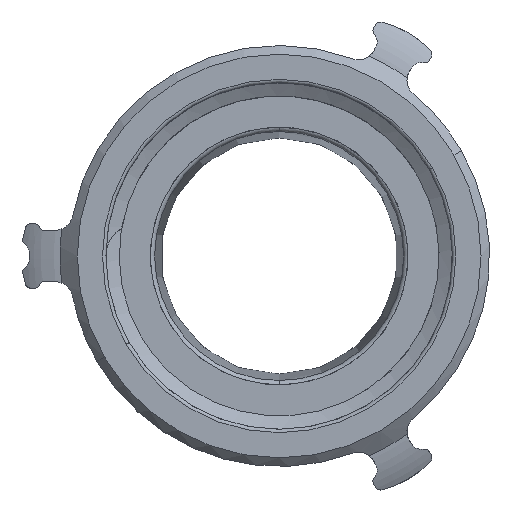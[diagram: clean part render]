
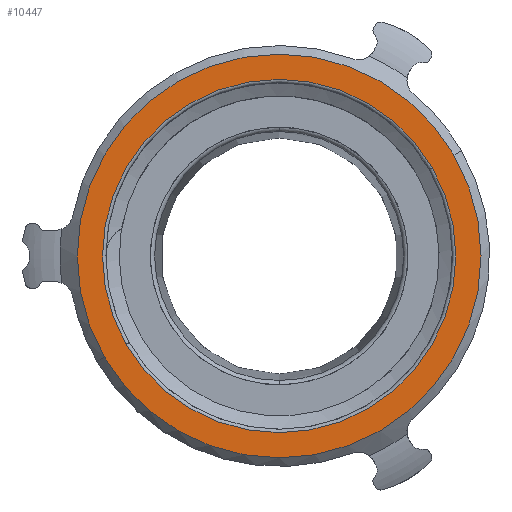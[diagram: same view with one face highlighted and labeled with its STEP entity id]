
A CAD part, left-side view. The second image highlights one B-rep face of the part: STEP entity #10447.
In plain terms, the highlighted planar face has unit normal (-1, 0, 0).
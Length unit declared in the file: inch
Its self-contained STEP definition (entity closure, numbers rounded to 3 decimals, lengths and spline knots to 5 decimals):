
#84 = EDGE_CURVE ( 'NONE', #3332, #3329, #12236, .T. ) ;
#127 = EDGE_CURVE ( 'NONE', #11479, #11476, #12284, .T. ) ;
#2428 = AXIS2_PLACEMENT_3D ( 'NONE', #8989, #8990, #8991 ) ;
#2440 = AXIS2_PLACEMENT_3D ( 'NONE', #3962, #3963, #3964 ) ;
#3329 = VERTEX_POINT ( 'NONE', #5243 ) ;
#3332 = VERTEX_POINT ( 'NONE', #5246 ) ;
#3841 = CARTESIAN_POINT ( 'NONE',  ( -0.8, -0.58735, -1.01732 ) ) ;
#3844 = PLANE ( 'NONE',  #10945 ) ;
#3846 = DIRECTION ( 'NONE',  ( 1., 0., 0. ) ) ;
#3847 = DIRECTION ( 'NONE',  ( 0., -0.866, 0.5 ) ) ;
#3962 = CARTESIAN_POINT ( 'NONE',  ( -0.8, 0., 0. ) ) ;
#3963 = DIRECTION ( 'NONE',  ( -1., 0., 0. ) ) ;
#3964 = DIRECTION ( 'NONE',  ( 0., 0.866, -0.5 ) ) ;
#4838 = ORIENTED_EDGE ( 'NONE', *, *, #127, .F. ) ;
#4839 = ORIENTED_EDGE ( 'NONE', *, *, #11090, .F. ) ;
#4840 = ORIENTED_EDGE ( 'NONE', *, *, #11091, .T. ) ;
#4841 = ORIENTED_EDGE ( 'NONE', *, *, #84, .T. ) ;
#5243 = CARTESIAN_POINT ( 'NONE',  ( -0.8, -1.01732, 0.58735 ) ) ;
#5246 = CARTESIAN_POINT ( 'NONE',  ( -0.8, 1.01732, -0.58735 ) ) ;
#5884 = FACE_OUTER_BOUND ( 'NONE', #7967, .T. ) ;
#5891 = FACE_BOUND ( 'NONE', #7956, .T. ) ;
#7234 = CARTESIAN_POINT ( 'NONE',  ( -0.8, 0., 0. ) ) ;
#7235 = DIRECTION ( 'NONE',  ( -1., 0., 0. ) ) ;
#7236 = DIRECTION ( 'NONE',  ( 0., 0.866, -0.5 ) ) ;
#7239 = CARTESIAN_POINT ( 'NONE',  ( -0.8, 0., 0. ) ) ;
#7240 = DIRECTION ( 'NONE',  ( -1., 0., 0. ) ) ;
#7241 = DIRECTION ( 'NONE',  ( 0., 0.866, -0.5 ) ) ;
#7576 = CARTESIAN_POINT ( 'NONE',  ( -0.8, -0.8904, 0.51408 ) ) ;
#7579 = CARTESIAN_POINT ( 'NONE',  ( -0.8, 0.8904, -0.51408 ) ) ;
#7731 = AXIS2_PLACEMENT_3D ( 'NONE', #7234, #7235, #7236 ) ;
#7732 = AXIS2_PLACEMENT_3D ( 'NONE', #7239, #7240, #7241 ) ;
#7956 = EDGE_LOOP ( 'NONE', ( #4838, #4839 ) ) ;
#7967 = EDGE_LOOP ( 'NONE', ( #4840, #4841 ) ) ;
#8989 = CARTESIAN_POINT ( 'NONE',  ( -0.8, 0., 0. ) ) ;
#8990 = DIRECTION ( 'NONE',  ( -1., 0., 0. ) ) ;
#8991 = DIRECTION ( 'NONE',  ( 0., 0.866, -0.5 ) ) ;
#10361 = CIRCLE ( 'NONE', #7731, 1.02815 ) ;
#10362 = CIRCLE ( 'NONE', #7732, 1.1747 ) ;
#10447 = ADVANCED_FACE ( 'NONE', ( #5891, #5884 ), #3844, .F. ) ;
#10945 = AXIS2_PLACEMENT_3D ( 'NONE', #3841, #3846, #3847 ) ;
#11090 = EDGE_CURVE ( 'NONE', #11476, #11479, #10361, .T. ) ;
#11091 = EDGE_CURVE ( 'NONE', #3329, #3332, #10362, .T. ) ;
#11476 = VERTEX_POINT ( 'NONE', #7576 ) ;
#11479 = VERTEX_POINT ( 'NONE', #7579 ) ;
#12236 = CIRCLE ( 'NONE', #2428, 1.1747 ) ;
#12284 = CIRCLE ( 'NONE', #2440, 1.02815 ) ;
